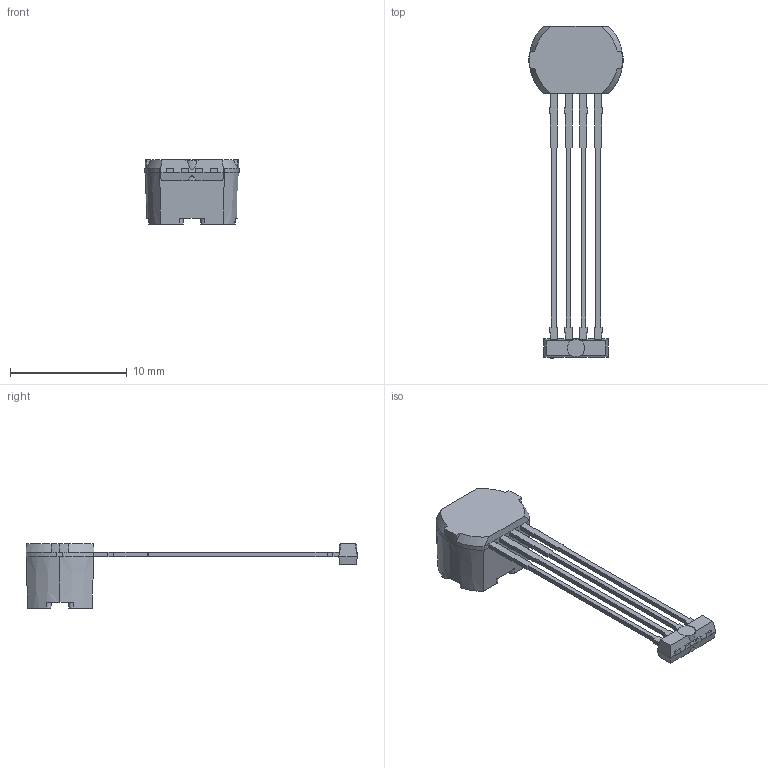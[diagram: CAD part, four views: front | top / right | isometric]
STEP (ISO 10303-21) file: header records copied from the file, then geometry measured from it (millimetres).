
FILE_DESCRIPTION (( 'STEP AP214' ), '1' );
FILE_NAME ('SG.STEP', '2016-11-11T19:40:03', ( '' ), ( '' ), 'SwSTEP 2.0', 'SolidWorks 2015', '' );
FILE_SCHEMA (( 'AUTOMOTIVE_DESIGN' ));
Length unit declared in the file: millimetre
Products named in the file (2): SG; SG Mold
Assembly tree (1 placements, depth 2):
  SG
    SG Mold
Bounding box: 8.1 x 28.4 x 5.5 mm (x, y, z)
Volume: 240.1 mm3; surface area: 391.3 mm2
Topology: 1 solids, 1 shells, 204 faces, 560 edges, 352 vertices
Faces by surface type: plane 168, cylinder 18, cone 14, bspline 4
Entity records: 6482 total; most frequent: CARTESIAN_POINT 1372, ORIENTED_EDGE 1120, DIRECTION 964, EDGE_CURVE 560, LINE 444, VECTOR 444, VERTEX_POINT 352, AXIS2_PLACEMENT_3D 260
